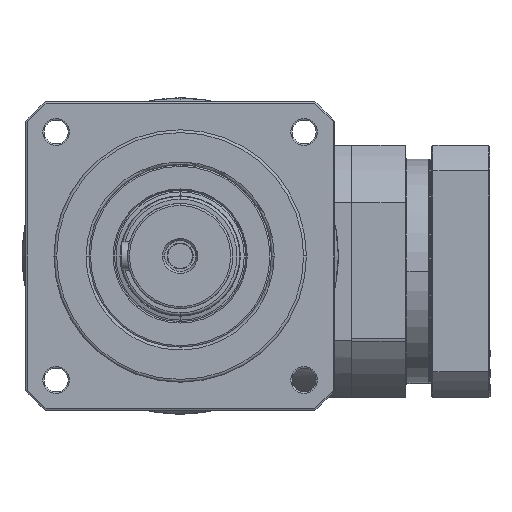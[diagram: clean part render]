
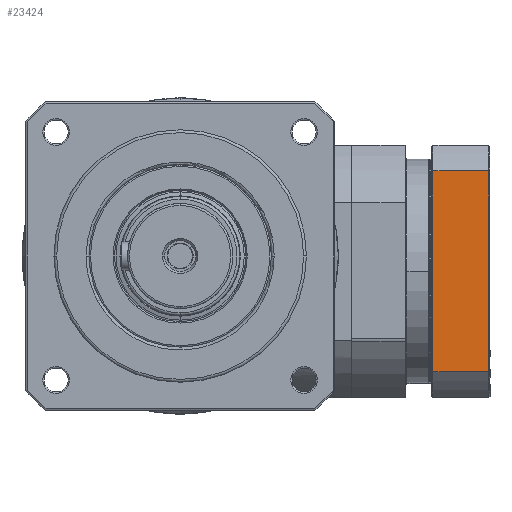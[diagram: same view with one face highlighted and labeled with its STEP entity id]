
A CAD part, left-side view. The second image highlights one B-rep face of the part: STEP entity #23424.
In plain terms, the highlighted planar face has unit normal (-1, 0, 0) as drawn and (0, 1, 0) by its records, which use the part's own axes.
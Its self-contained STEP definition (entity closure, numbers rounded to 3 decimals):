
#1190 = LINE ( 'NONE', #19380, #11591 ) ;
#4845 = DIRECTION ( 'NONE',  ( 0., 0., 1. ) ) ;
#5036 = CARTESIAN_POINT ( 'NONE',  ( 0., 90., -71.589 ) ) ;
#5410 = ORIENTED_EDGE ( 'NONE', *, *, #31489, .F. ) ;
#5440 = EDGE_CURVE ( 'NONE', #21284, #7516, #26936, .T. ) ;
#5550 = VERTEX_POINT ( 'NONE', #10587 ) ;
#7156 = DIRECTION ( 'NONE',  ( 0., 0., 1. ) ) ;
#7188 = CARTESIAN_POINT ( 'NONE',  ( -55., 90., 71.589 ) ) ;
#7516 = VERTEX_POINT ( 'NONE', #12847 ) ;
#9744 = DIRECTION ( 'NONE',  ( 0., 0., 1. ) ) ;
#10587 = CARTESIAN_POINT ( 'NONE',  ( -4.8, 90., -71.589 ) ) ;
#10621 = LINE ( 'NONE', #7188, #28791 ) ;
#11146 = EDGE_CURVE ( 'NONE', #5550, #14936, #1190, .T. ) ;
#11591 = VECTOR ( 'NONE', #7156, 1000. ) ;
#11934 = EDGE_CURVE ( 'NONE', #7516, #14936, #10621, .T. ) ;
#12847 = CARTESIAN_POINT ( 'NONE',  ( -44.7, 90., 71.589 ) ) ;
#14721 = PLANE ( 'NONE',  #17875 ) ;
#14936 = VERTEX_POINT ( 'NONE', #24924 ) ;
#15035 = CARTESIAN_POINT ( 'NONE',  ( -55., 90., -71.589 ) ) ;
#17142 = CARTESIAN_POINT ( 'NONE',  ( -44.7, 90., -71.589 ) ) ;
#17875 = AXIS2_PLACEMENT_3D ( 'NONE', #15035, #24506, #9744 ) ;
#19380 = CARTESIAN_POINT ( 'NONE',  ( -4.8, 90., -71.589 ) ) ;
#19414 = DIRECTION ( 'NONE',  ( 1., 0., 0. ) ) ;
#20226 = FACE_OUTER_BOUND ( 'NONE', #26254, .T. ) ;
#20283 = VECTOR ( 'NONE', #4845, 1000. ) ;
#20999 = CARTESIAN_POINT ( 'NONE',  ( -44.7, 90., -71.589 ) ) ;
#21284 = VERTEX_POINT ( 'NONE', #20999 ) ;
#22041 = DIRECTION ( 'NONE',  ( 1., 0., 0. ) ) ;
#23424 = ADVANCED_FACE ( 'NONE', ( #20226 ), #14721, .T. ) ;
#24399 = ORIENTED_EDGE ( 'NONE', *, *, #5440, .T. ) ;
#24506 = DIRECTION ( 'NONE',  ( 0., 1., 0. ) ) ;
#24924 = CARTESIAN_POINT ( 'NONE',  ( -4.8, 90., 71.589 ) ) ;
#25912 = VECTOR ( 'NONE', #22041, 1000. ) ;
#26254 = EDGE_LOOP ( 'NONE', ( #5410, #24399, #27662, #27343 ) ) ;
#26936 = LINE ( 'NONE', #17142, #20283 ) ;
#27343 = ORIENTED_EDGE ( 'NONE', *, *, #11146, .F. ) ;
#27662 = ORIENTED_EDGE ( 'NONE', *, *, #11934, .T. ) ;
#28254 = LINE ( 'NONE', #5036, #25912 ) ;
#28791 = VECTOR ( 'NONE', #19414, 1000. ) ;
#31489 = EDGE_CURVE ( 'NONE', #21284, #5550, #28254, .T. ) ;
